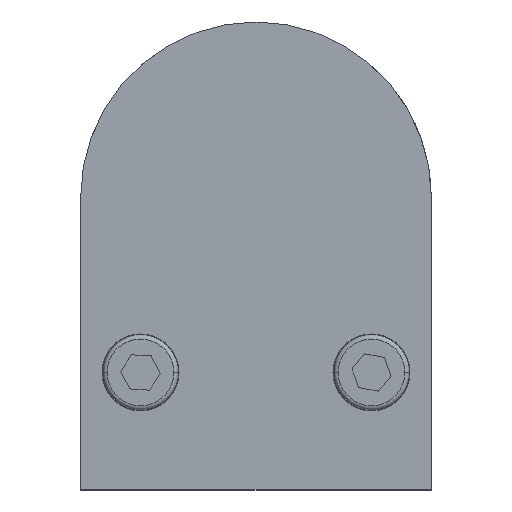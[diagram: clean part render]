
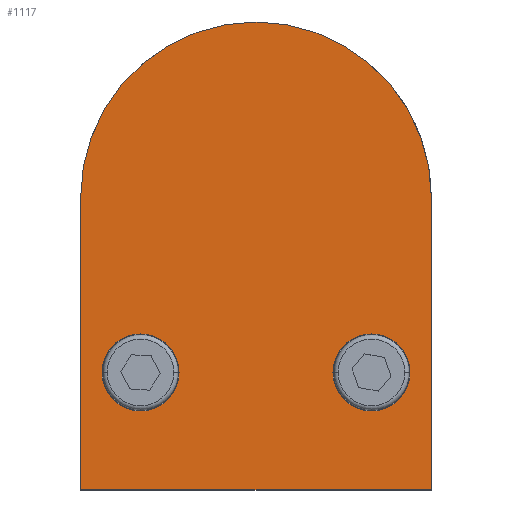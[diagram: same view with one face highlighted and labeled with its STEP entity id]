
A CAD part, top view. The second image highlights one B-rep face of the part: STEP entity #1117.
In plain terms, the highlighted planar face has unit normal (0, 0, 1).
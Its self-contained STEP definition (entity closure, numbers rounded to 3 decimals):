
#148 = EDGE_CURVE ( 'NONE', #3345, #3183, #2817, .T. ) ;
#159 = ORIENTED_EDGE ( 'NONE', *, *, #2650, .F. ) ;
#231 = CARTESIAN_POINT ( 'NONE',  ( -18., 39.038, 14.25 ) ) ;
#237 = VERTEX_POINT ( 'NONE', #1882 ) ;
#272 = EDGE_LOOP ( 'NONE', ( #2618, #2701, #3159, #2644 ) ) ;
#524 = ORIENTED_EDGE ( 'NONE', *, *, #1925, .F. ) ;
#563 = CARTESIAN_POINT ( 'NONE',  ( -20.5, 0., 14.25 ) ) ;
#571 = EDGE_CURVE ( 'NONE', #3183, #1329, #942, .T. ) ;
#575 = DIRECTION ( 'NONE',  ( 1., 0., 0. ) ) ;
#590 = EDGE_LOOP ( 'NONE', ( #524, #3042 ) ) ;
#609 = CARTESIAN_POINT ( 'NONE',  ( -20.5, 59.5, 14.25 ) ) ;
#693 = CARTESIAN_POINT ( 'NONE',  ( -13.5, 39.038, 14.25 ) ) ;
#838 = CARTESIAN_POINT ( 'NONE',  ( 0., 59.5, 14.25 ) ) ;
#942 = CIRCLE ( 'NONE', #2425, 20.5 ) ;
#944 = CARTESIAN_POINT ( 'NONE',  ( -13.5, 39.038, 14.25 ) ) ;
#967 = CIRCLE ( 'NONE', #3171, 4.5 ) ;
#1097 = CARTESIAN_POINT ( 'NONE',  ( 20.5, 59.5, 14.25 ) ) ;
#1112 = EDGE_LOOP ( 'NONE', ( #1193, #159 ) ) ;
#1117 = ADVANCED_FACE ( 'NONE', ( #2382, #2656, #3161 ), #1850, .T. ) ;
#1124 = LINE ( 'NONE', #563, #1398 ) ;
#1189 = AXIS2_PLACEMENT_3D ( 'NONE', #944, #1404, #2183 ) ;
#1193 = ORIENTED_EDGE ( 'NONE', *, *, #1712, .F. ) ;
#1213 = EDGE_CURVE ( 'NONE', #1931, #1487, #2217, .T. ) ;
#1329 = VERTEX_POINT ( 'NONE', #609 ) ;
#1351 = AXIS2_PLACEMENT_3D ( 'NONE', #838, #2622, #575 ) ;
#1398 = VECTOR ( 'NONE', #2156, 1000. ) ;
#1404 = DIRECTION ( 'NONE',  ( 0., 0., 1. ) ) ;
#1487 = VERTEX_POINT ( 'NONE', #3219 ) ;
#1489 = DIRECTION ( 'NONE',  ( 1., 0., 0. ) ) ;
#1525 = DIRECTION ( 'NONE',  ( 1., 0., 0. ) ) ;
#1540 = DIRECTION ( 'NONE',  ( 0., 0., 1. ) ) ;
#1638 = VECTOR ( 'NONE', #2898, 1000. ) ;
#1641 = DIRECTION ( 'NONE',  ( 0., 0., 1. ) ) ;
#1712 = EDGE_CURVE ( 'NONE', #2862, #3065, #967, .T. ) ;
#1750 = DIRECTION ( 'NONE',  ( 0., 1., 0. ) ) ;
#1808 = CARTESIAN_POINT ( 'NONE',  ( 0., 59.5, 14.25 ) ) ;
#1850 = PLANE ( 'NONE',  #1351 ) ;
#1882 = CARTESIAN_POINT ( 'NONE',  ( -20.5, 25.348, 14.25 ) ) ;
#1925 = EDGE_CURVE ( 'NONE', #1487, #1931, #2416, .T. ) ;
#1931 = VERTEX_POINT ( 'NONE', #231 ) ;
#2046 = CARTESIAN_POINT ( 'NONE',  ( 9., 39.038, 14.25 ) ) ;
#2064 = LINE ( 'NONE', #2392, #1638 ) ;
#2102 = DIRECTION ( 'NONE',  ( 1., 0., 0. ) ) ;
#2156 = DIRECTION ( 'NONE',  ( 0., -1., 0. ) ) ;
#2183 = DIRECTION ( 'NONE',  ( 1., 0., 0. ) ) ;
#2212 = EDGE_CURVE ( 'NONE', #1329, #237, #1124, .T. ) ;
#2217 = CIRCLE ( 'NONE', #1189, 4.5 ) ;
#2283 = CARTESIAN_POINT ( 'NONE',  ( 20.5, 0., 14.25 ) ) ;
#2382 = FACE_BOUND ( 'NONE', #590, .T. ) ;
#2392 = CARTESIAN_POINT ( 'NONE',  ( 47.6, 25.348, 14.25 ) ) ;
#2413 = CARTESIAN_POINT ( 'NONE',  ( 13.5, 39.038, 14.25 ) ) ;
#2416 = CIRCLE ( 'NONE', #2974, 4.5 ) ;
#2425 = AXIS2_PLACEMENT_3D ( 'NONE', #1808, #3380, #2102 ) ;
#2483 = VECTOR ( 'NONE', #1750, 1000. ) ;
#2618 = ORIENTED_EDGE ( 'NONE', *, *, #3175, .F. ) ;
#2622 = DIRECTION ( 'NONE',  ( 0., 0., 1. ) ) ;
#2644 = ORIENTED_EDGE ( 'NONE', *, *, #2212, .T. ) ;
#2650 = EDGE_CURVE ( 'NONE', #3065, #2862, #3312, .T. ) ;
#2656 = FACE_BOUND ( 'NONE', #1112, .T. ) ;
#2701 = ORIENTED_EDGE ( 'NONE', *, *, #148, .T. ) ;
#2757 = CARTESIAN_POINT ( 'NONE',  ( 18., 39.038, 14.25 ) ) ;
#2796 = DIRECTION ( 'NONE',  ( 0., 0., 1. ) ) ;
#2817 = LINE ( 'NONE', #2283, #2483 ) ;
#2862 = VERTEX_POINT ( 'NONE', #2757 ) ;
#2898 = DIRECTION ( 'NONE',  ( -1., 0., 0. ) ) ;
#2974 = AXIS2_PLACEMENT_3D ( 'NONE', #693, #2796, #1489 ) ;
#3042 = ORIENTED_EDGE ( 'NONE', *, *, #1213, .F. ) ;
#3065 = VERTEX_POINT ( 'NONE', #2046 ) ;
#3094 = CARTESIAN_POINT ( 'NONE',  ( 13.5, 39.038, 14.25 ) ) ;
#3097 = AXIS2_PLACEMENT_3D ( 'NONE', #2413, #1641, #3143 ) ;
#3143 = DIRECTION ( 'NONE',  ( 1., 0., 0. ) ) ;
#3159 = ORIENTED_EDGE ( 'NONE', *, *, #571, .T. ) ;
#3161 = FACE_OUTER_BOUND ( 'NONE', #272, .T. ) ;
#3171 = AXIS2_PLACEMENT_3D ( 'NONE', #3094, #1540, #1525 ) ;
#3175 = EDGE_CURVE ( 'NONE', #3345, #237, #2064, .T. ) ;
#3183 = VERTEX_POINT ( 'NONE', #1097 ) ;
#3219 = CARTESIAN_POINT ( 'NONE',  ( -9., 39.038, 14.25 ) ) ;
#3312 = CIRCLE ( 'NONE', #3097, 4.5 ) ;
#3318 = CARTESIAN_POINT ( 'NONE',  ( 20.5, 25.348, 14.25 ) ) ;
#3345 = VERTEX_POINT ( 'NONE', #3318 ) ;
#3380 = DIRECTION ( 'NONE',  ( 0., 0., 1. ) ) ;
